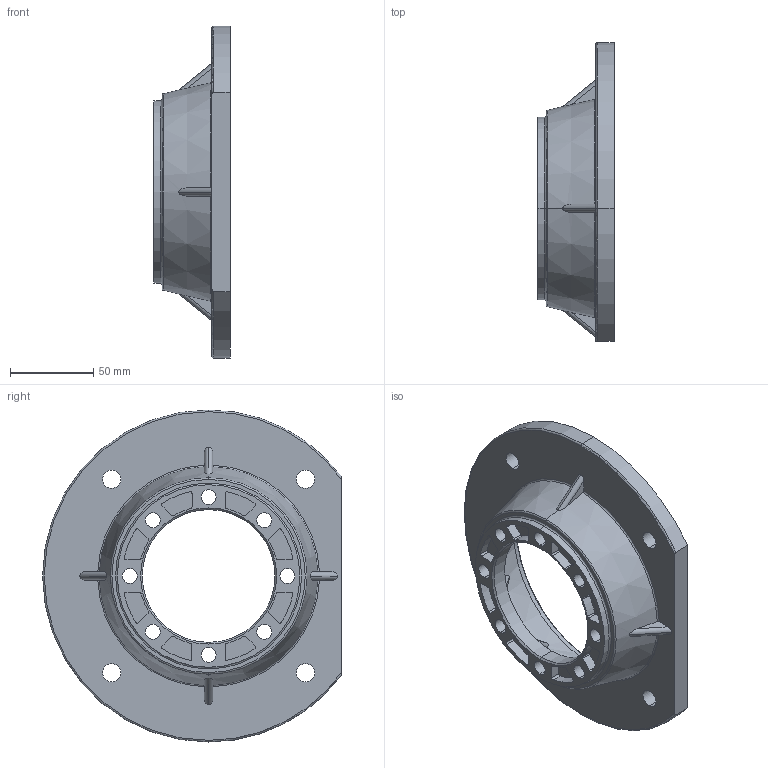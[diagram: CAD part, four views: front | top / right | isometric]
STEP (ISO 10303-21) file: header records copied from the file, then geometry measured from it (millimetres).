
FILE_DESCRIPTION (( 'STEP AP203' ), '1' );
FILE_NAME ('FCN 063-FB.STEP', '2017-01-19T05:47:41', ( 'jsk-23' ), ( 'hx' ), 'SwSTEP 2.0', 'SolidWorks 2012', '' );
FILE_SCHEMA (( 'CONFIG_CONTROL_DESIGN' ));
Length unit declared in the file: millimetre
Products named in the file (1): FCN 063-FB
Bounding box: 46 x 180 x 200 mm (x, y, z)
Volume: 206683.6 mm3; surface area: 99965.4 mm2
Topology: 1 solids, 1 shells, 444 faces, 1221 edges, 810 vertices
Faces by surface type: cylinder 261, plane 140, cone 24, torus 19
Entity records: 14905 total; most frequent: CARTESIAN_POINT 3142, DIRECTION 2566, ORIENTED_EDGE 2442, EDGE_CURVE 1221, AXIS2_PLACEMENT_3D 1006, VERTEX_POINT 810, CIRCLE 561, LINE 554
